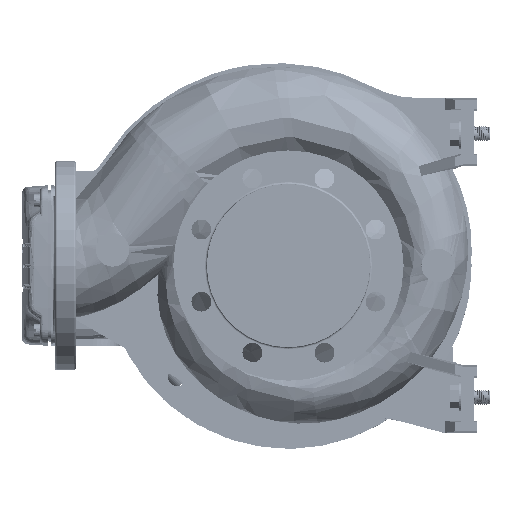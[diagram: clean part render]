
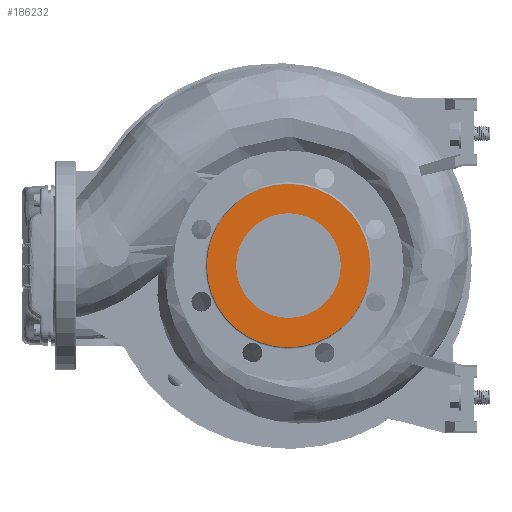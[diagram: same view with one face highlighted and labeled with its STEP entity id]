
A CAD part, left-side view. The second image highlights one B-rep face of the part: STEP entity #186232.
In plain terms, the highlighted planar face has unit normal (-1, 0, 0).
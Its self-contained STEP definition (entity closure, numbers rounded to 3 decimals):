
#15649 = CARTESIAN_POINT ( 'NONE',  ( -125., 78., 0. ) ) ;
#15959 = PLANE ( 'NONE',  #171529 ) ;
#27096 = VERTEX_POINT ( 'NONE', #15649 ) ;
#28523 = ORIENTED_EDGE ( 'NONE', *, *, #44627, .T. ) ;
#29406 = CIRCLE ( 'NONE', #182248, 50. ) ;
#34095 = CIRCLE ( 'NONE', #154841, 78. ) ;
#37287 = CARTESIAN_POINT ( 'NONE',  ( -125., -78., 0. ) ) ;
#39706 = DIRECTION ( 'NONE',  ( 0., -1., 0. ) ) ;
#42999 = ORIENTED_EDGE ( 'NONE', *, *, #133899, .T. ) ;
#44607 = ORIENTED_EDGE ( 'NONE', *, *, #104597, .F. ) ;
#44627 = EDGE_CURVE ( 'NONE', #104556, #27096, #34095, .T. ) ;
#44691 = DIRECTION ( 'NONE',  ( -1., 0., 0. ) ) ;
#56663 = DIRECTION ( 'NONE',  ( 0., -1., 0. ) ) ;
#64673 = CARTESIAN_POINT ( 'NONE',  ( -125., 0., 0. ) ) ;
#68455 = EDGE_LOOP ( 'NONE', ( #28523, #42999 ) ) ;
#73384 = CARTESIAN_POINT ( 'NONE',  ( -125., 0., 0. ) ) ;
#73757 = DIRECTION ( 'NONE',  ( 0., -1., 0. ) ) ;
#74814 = CARTESIAN_POINT ( 'NONE',  ( -125., 0., 0. ) ) ;
#75166 = AXIS2_PLACEMENT_3D ( 'NONE', #74814, #139404, #73757 ) ;
#79176 = DIRECTION ( 'NONE',  ( 0., -1., 0. ) ) ;
#79231 = CIRCLE ( 'NONE', #185850, 50. ) ;
#79464 = CARTESIAN_POINT ( 'NONE',  ( -125., 0., 0. ) ) ;
#80998 = VERTEX_POINT ( 'NONE', #100669 ) ;
#87634 = EDGE_CURVE ( 'NONE', #100818, #80998, #79231, .T. ) ;
#96207 = DIRECTION ( 'NONE',  ( 1., 0., 0. ) ) ;
#100669 = CARTESIAN_POINT ( 'NONE',  ( -125., 50., 0. ) ) ;
#100818 = VERTEX_POINT ( 'NONE', #108246 ) ;
#104556 = VERTEX_POINT ( 'NONE', #37287 ) ;
#104597 = EDGE_CURVE ( 'NONE', #80998, #100818, #29406, .T. ) ;
#108246 = CARTESIAN_POINT ( 'NONE',  ( -125., -50., 0. ) ) ;
#117745 = CIRCLE ( 'NONE', #75166, 78. ) ;
#129556 = FACE_OUTER_BOUND ( 'NONE', #68455, .T. ) ;
#133899 = EDGE_CURVE ( 'NONE', #27096, #104556, #117745, .T. ) ;
#139404 = DIRECTION ( 'NONE',  ( -1., 0., 0. ) ) ;
#149048 = ORIENTED_EDGE ( 'NONE', *, *, #87634, .F. ) ;
#154841 = AXIS2_PLACEMENT_3D ( 'NONE', #73384, #174645, #56663 ) ;
#161032 = CARTESIAN_POINT ( 'NONE',  ( -125., 0., 0. ) ) ;
#168106 = EDGE_LOOP ( 'NONE', ( #149048, #44607 ) ) ;
#171529 = AXIS2_PLACEMENT_3D ( 'NONE', #79464, #96207, #215256 ) ;
#174418 = DIRECTION ( 'NONE',  ( -1., 0., 0. ) ) ;
#174645 = DIRECTION ( 'NONE',  ( -1., 0., 0. ) ) ;
#182248 = AXIS2_PLACEMENT_3D ( 'NONE', #64673, #44691, #79176 ) ;
#185850 = AXIS2_PLACEMENT_3D ( 'NONE', #161032, #174418, #39706 ) ;
#186232 = ADVANCED_FACE ( 'NONE', ( #198565, #129556 ), #15959, .F. ) ;
#198565 = FACE_BOUND ( 'NONE', #168106, .T. ) ;
#215256 = DIRECTION ( 'NONE',  ( 0., 1., 0. ) ) ;
